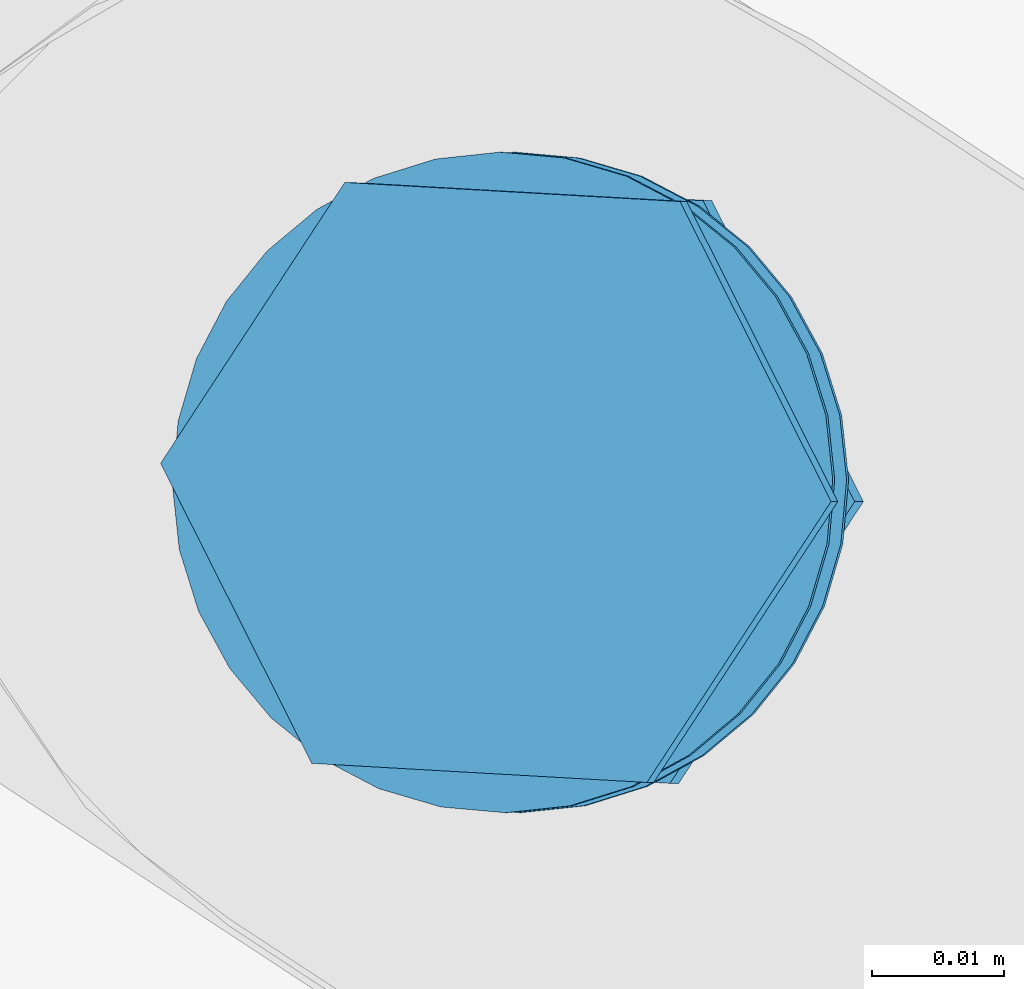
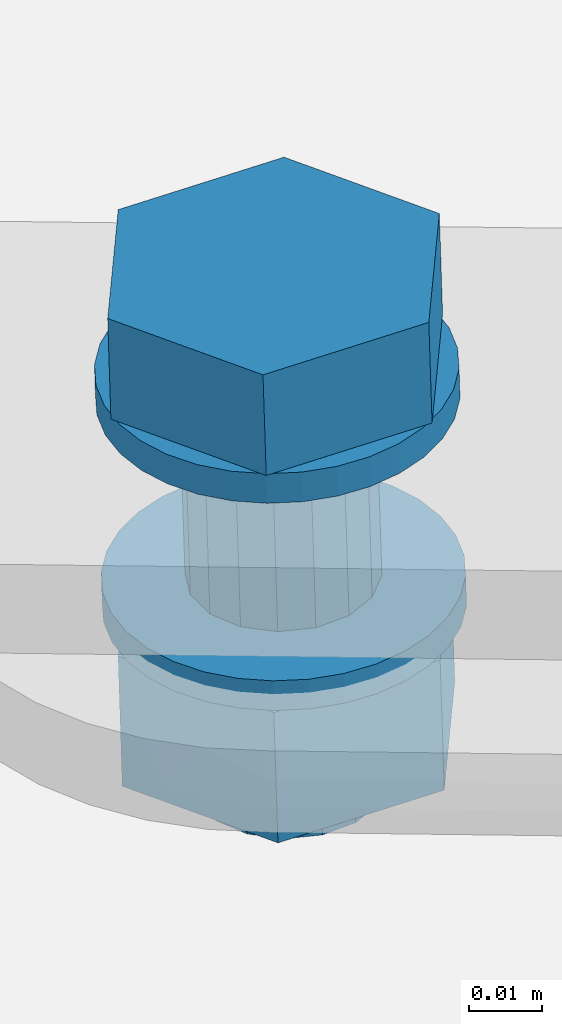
# One storey, part 105 of 476: 1 mechanical fastener.
"""IFC2X3 building model written with IfcOpenShell, lengths in millimetres."""

from ifc_helpers import new_model, entity, si_unit, converted_unit, origin_with_axes, place, context, project, spatial, faceted_brep, element, save


model = new_model("IFC2X3")

# Units and contexts
model_context = context("Model", 3, precision=1e-09, world=origin_with_axes())
ifc_project = project(units=[si_unit("LENGTHUNIT", "METRE", prefix="MILLI"), si_unit("AREAUNIT", "SQUARE_METRE"), si_unit("VOLUMEUNIT", "CUBIC_METRE"), converted_unit("PLANEANGLEUNIT", "DEGREE", entity("IfcPlaneAngleMeasure", 0.01745329), si_unit("PLANEANGLEUNIT", "RADIAN"), dimensions=[0, 0, 0, 0, 0, 0, 0])], contexts=[model_context])

# Site, building, storey
site_placement = place(None, origin_with_axes())
site = spatial("IfcSite", under=ifc_project, at=site_placement, Name="mKR Teilneubau & Sanierung BA1 - Ostfildern", CompositionType="ELEMENT")
building_placement = place(site_placement, origin_with_axes())
building = spatial("IfcBuilding", under=site, at=building_placement, Name="Struktur 1", CompositionType="ELEMENT")
storey_placement = place(building_placement, origin_with_axes())
storey = spatial("IfcBuildingStorey", under=building, at=storey_placement, Name="Default Storey", CompositionType="ELEMENT", Elevation=0.0)

# Mechanical fastener
mechanical_fastener_placement = place(None, origin_with_axes())
element("IfcMechanicalFastener", 1, at=mechanical_fastener_placement, inside=storey, ObjectType="-", NominalDiameter=27.0, NominalLength=70.0, context=model_context, shape_type="Brep", body=[
    faceted_brep([(14274.404906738, -22971.982515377, 5417.92806226), (14274.555116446, -22971.982515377, 5412.930319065), (14276.827464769, -22967.64083734, 5412.998615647), (14276.677255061, -22967.64083734, 5417.996358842), (14278.209513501, -22962.939070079, 5413.040153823), (14278.059303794, -22962.939070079, 5418.037897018), (14278.648151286, -22958.057899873, 5413.053337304), (14278.497941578, -22958.057899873, 5418.051080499), (14278.126521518, -22953.184907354, 5413.037659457), (14277.97631181, -22953.184907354, 5418.035402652), (14276.664670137, -22948.507358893, 5412.993722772), (14276.514460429, -22948.507358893, 5417.991465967), (14274.318775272, -22944.205010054, 5412.923215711), (14274.168565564, -22944.205010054, 5417.920958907), (14271.178988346, -22940.44319769, 5412.828847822), (14271.028778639, -22940.44319769, 5417.826591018), (14267.365969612, -22937.366486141, 5412.71424561), (14267.215759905, -22937.366486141, 5417.711988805), (14263.02625124, -22935.093111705, 5412.583813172), (14262.876041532, -22935.093111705, 5417.581556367), (14258.326606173, -22933.710438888, 5412.442562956), (14258.176396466, -22933.710438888, 5417.440306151), (14253.447639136, -22933.27160303, 5412.295923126), (14253.297429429, -22933.27160303, 5417.293666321), (14248.576846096, -22933.793468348, 5412.14952897), (14248.426636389, -22933.793468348, 5417.147272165), (14243.901408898, -22935.255979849, 5412.009006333), (14243.751199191, -22935.255979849, 5417.006749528), (14239.601001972, -22937.602934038, 5411.879755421), (14239.450792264, -22937.602934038, 5416.877498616), (14235.840887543, -22940.74413878, 5411.766743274), (14235.690677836, -22940.74413878, 5416.764486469), (14232.765564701, -22944.55887934, 5411.674312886), (14232.615354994, -22944.55887934, 5416.672056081), (14230.493216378, -22948.900557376, 5411.606016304), (14230.343006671, -22948.900557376, 5416.603759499), (14229.111167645, -22953.602324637, 5411.564478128), (14228.960957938, -22953.602324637, 5416.562221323), (14228.672529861, -22958.483494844, 5411.551294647), (14228.522320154, -22958.483494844, 5416.549037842), (14229.194159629, -22963.356487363, 5411.566972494), (14229.043949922, -22963.356487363, 5416.564715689), (14230.65601101, -22968.034035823, 5411.610909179), (14230.505801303, -22968.034035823, 5416.608652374), (14233.001905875, -22972.336384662, 5411.68141624), (14232.851696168, -22972.336384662, 5416.679159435), (14236.1416928, -22976.098197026, 5411.775784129), (14235.991483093, -22976.098197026, 5416.773527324), (14239.954711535, -22979.174908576, 5411.890386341), (14239.804501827, -22979.174908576, 5416.888129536), (14244.294429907, -22981.448283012, 5412.020818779), (14244.1442202, -22981.448283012, 5417.018561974), (14248.994074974, -22982.830955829, 5412.162068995), (14248.843865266, -22982.830955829, 5417.159812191), (14253.87304201, -22983.269791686, 5412.308708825), (14253.722832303, -22983.269791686, 5417.30645202), (14258.74383505, -22982.747926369, 5412.455102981), (14258.593625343, -22982.747926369, 5417.452846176), (14263.419272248, -22981.285414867, 5412.595625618), (14263.269062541, -22981.285414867, 5417.593368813), (14267.719679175, -22978.938460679, 5412.72487653), (14267.569469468, -22978.938460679, 5417.722619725), (14271.479793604, -22975.797255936, 5412.837888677), (14271.329583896, -22975.797255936, 5417.835631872)], [[[0, 1, 2, 3]], [[3, 2, 4, 5]], [[5, 4, 6, 7]], [[7, 6, 8, 9]], [[9, 8, 10, 11]], [[11, 10, 12, 13]], [[13, 12, 14, 15]], [[15, 14, 16, 17]], [[17, 16, 18, 19]], [[19, 18, 20, 21]], [[21, 20, 22, 23]], [[23, 22, 24, 25]], [[25, 24, 26, 27]], [[27, 26, 28, 29]], [[29, 28, 30, 31]], [[31, 30, 32, 33]], [[33, 32, 34, 35]], [[35, 34, 36, 37]], [[37, 36, 38, 39]], [[39, 38, 40, 41]], [[41, 40, 42, 43]], [[43, 42, 44, 45]], [[45, 44, 46, 47]], [[47, 46, 48, 49]], [[49, 48, 50, 51]], [[51, 50, 52, 53]], [[53, 52, 54, 55]], [[55, 54, 56, 57]], [[57, 56, 58, 59]], [[59, 58, 60, 61]], [[61, 60, 62, 63]], [[63, 62, 1, 0]], [[0, 3, 5, 7, 9, 11, 13, 15, 17, 19, 21, 23, 25, 27, 29, 31, 33, 35, 37, 39, 41, 43, 45, 47, 49, 51, 53, 55, 57, 59, 61, 63]], [[1, 62, 60, 58, 56, 54, 52, 50, 48, 46, 44, 42, 40, 38, 36, 34, 32, 30, 28, 26, 24, 22, 20, 18, 16, 14, 12, 10, 8, 6, 4, 2]]]),
    faceted_brep([(14242.076414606, -22935.564251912, 5416.956413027), (14241.565701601, -22935.564251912, 5433.948739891), (14266.938042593, -22937.01111455, 5434.711318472), (14267.448755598, -22937.01111455, 5417.718991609), (14278.371758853, -22959.717559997, 5435.054964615), (14278.882471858, -22959.717559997, 5418.062637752), (14264.433134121, -22980.977142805, 5434.636032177), (14264.943847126, -22980.977142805, 5417.643705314), (14239.060793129, -22979.530280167, 5433.873453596), (14239.571506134, -22979.530280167, 5416.881126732), (14227.627076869, -22956.82383472, 5433.529807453), (14228.137789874, -22956.82383472, 5416.537480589)], [[[0, 1, 2, 3]], [[3, 2, 4, 5]], [[5, 4, 6, 7]], [[7, 6, 8, 9]], [[9, 8, 10, 11]], [[11, 10, 1, 0]], [[4, 2, 1, 10, 8, 6]], [[0, 3, 5, 7, 9, 11]]]),
    faceted_brep([(14264.943528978, -22965.675079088, 5412.641123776), (14265.844777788, -22965.675079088, 5382.654978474), (14267.818152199, -22960.791618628, 5382.714289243), (14266.916903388, -22960.791618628, 5412.700434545), (14267.773336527, -22955.524370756, 5382.712942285), (14266.872087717, -22955.524370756, 5412.699087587), (14265.717153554, -22950.675226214, 5382.651142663), (14264.815904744, -22950.675226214, 5412.637287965), (14261.962638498, -22946.982423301, 5382.538298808), (14261.061389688, -22946.982423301, 5412.52444411), (14257.081382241, -22945.008157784, 5382.391590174), (14256.180133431, -22945.008157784, 5412.377735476), (14251.8165118, -22945.052993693, 5382.233351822), (14250.915262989, -22945.052993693, 5412.219497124), (14246.969555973, -22947.110105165, 5382.087674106), (14246.068307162, -22947.110105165, 5412.073819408), (14243.278419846, -22950.866315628, 5381.976735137), (14242.377171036, -22950.866315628, 5411.962880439), (14241.305045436, -22955.749776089, 5381.917424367), (14240.403796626, -22955.749776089, 5411.90356967), (14241.349861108, -22961.017023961, 5381.918771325), (14240.448612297, -22961.017023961, 5411.904916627), (14243.40604408, -22965.866168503, 5381.980570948), (14242.50479527, -22965.866168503, 5411.96671625), (14247.160559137, -22969.558971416, 5382.093414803), (14246.259310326, -22969.558971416, 5412.079560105), (14252.041815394, -22971.533236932, 5382.240123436), (14251.140566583, -22971.533236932, 5412.226268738), (14257.306685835, -22971.488401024, 5382.398361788), (14256.405437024, -22971.488401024, 5412.38450709), (14262.153641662, -22969.431289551, 5382.544039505), (14261.252392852, -22969.431289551, 5412.530184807)], [[[0, 1, 2, 3]], [[3, 2, 4, 5]], [[5, 4, 6, 7]], [[7, 6, 8, 9]], [[9, 8, 10, 11]], [[11, 10, 12, 13]], [[13, 12, 14, 15]], [[15, 14, 16, 17]], [[17, 16, 18, 19]], [[19, 18, 20, 21]], [[21, 20, 22, 23]], [[23, 22, 24, 25]], [[25, 24, 26, 27]], [[27, 26, 28, 29]], [[29, 28, 30, 31]], [[31, 30, 1, 0]], [[0, 3, 5, 7, 9, 11, 13, 15, 17, 19, 21, 23, 25, 27, 29, 31]], [[1, 30, 28, 26, 24, 22, 20, 18, 16, 14, 12, 10, 8, 6, 4, 2]]]),
    faceted_brep([(14275.45637469, -22971.982515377, 5382.943859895), (14275.606584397, -22971.982515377, 5377.9461167), (14277.87893272, -22967.64083734, 5378.014413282), (14277.728723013, -22967.64083734, 5383.012156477), (14279.260981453, -22962.939070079, 5378.055951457), (14279.110771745, -22962.939070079, 5383.053694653), (14279.699619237, -22958.057899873, 5378.069134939), (14279.54940953, -22958.057899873, 5383.066878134), (14279.177989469, -22953.184907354, 5378.053457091), (14279.027779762, -22953.184907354, 5383.051200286), (14277.716138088, -22948.507358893, 5378.009520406), (14277.565928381, -22948.507358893, 5383.007263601), (14275.370243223, -22944.205010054, 5377.939013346), (14275.220033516, -22944.205010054, 5382.936756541), (14272.230456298, -22940.44319769, 5377.844645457), (14272.08024659, -22940.44319769, 5382.842388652), (14268.417437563, -22937.366486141, 5377.730043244), (14268.267227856, -22937.366486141, 5382.727786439), (14264.077719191, -22935.093111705, 5377.599610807), (14263.927509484, -22935.093111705, 5382.597354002), (14259.378074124, -22933.710438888, 5377.45836059), (14259.227864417, -22933.710438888, 5382.456103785), (14254.499107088, -22933.27160303, 5377.31172076), (14254.34889738, -22933.27160303, 5382.309463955), (14249.628314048, -22933.793468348, 5377.165326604), (14249.47810434, -22933.793468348, 5382.163069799), (14244.95287685, -22935.255979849, 5377.024803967), (14244.802667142, -22935.255979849, 5382.022547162), (14240.652469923, -22937.602934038, 5376.895553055), (14240.502260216, -22937.602934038, 5381.89329625), (14236.892355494, -22940.74413878, 5376.782540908), (14236.742145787, -22940.74413878, 5381.780284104), (14233.817032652, -22944.55887934, 5376.69011052), (14233.666822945, -22944.55887934, 5381.687853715), (14231.544684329, -22948.900557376, 5376.621813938), (14231.394474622, -22948.900557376, 5381.619557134), (14230.162635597, -22953.602324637, 5376.580275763), (14230.012425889, -22953.602324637, 5381.578018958), (14229.723997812, -22958.483494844, 5376.567092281), (14229.573788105, -22958.483494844, 5381.564835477), (14230.24562758, -22963.356487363, 5376.582770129), (14230.095417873, -22963.356487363, 5381.580513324), (14231.707478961, -22968.034035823, 5376.626706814), (14231.557269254, -22968.034035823, 5381.624450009), (14234.053373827, -22972.336384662, 5376.697213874), (14233.903164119, -22972.336384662, 5381.694957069), (14237.193160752, -22976.098197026, 5376.791581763), (14237.042951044, -22976.098197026, 5381.789324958), (14241.006179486, -22979.174908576, 5376.906183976), (14240.855969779, -22979.174908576, 5381.903927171), (14245.345897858, -22981.448283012, 5377.036616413), (14245.195688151, -22981.448283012, 5382.034359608), (14250.045542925, -22982.830955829, 5377.17786663), (14249.895333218, -22982.830955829, 5382.175609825), (14254.924509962, -22983.269791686, 5377.32450646), (14254.774300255, -22983.269791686, 5382.322249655), (14259.795303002, -22982.747926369, 5377.470900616), (14259.645093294, -22982.747926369, 5382.468643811), (14264.4707402, -22981.285414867, 5377.611423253), (14264.320530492, -22981.285414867, 5382.609166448), (14268.771147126, -22978.938460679, 5377.740674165), (14268.620937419, -22978.938460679, 5382.73841736), (14272.531261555, -22975.797255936, 5377.853686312), (14272.381051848, -22975.797255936, 5382.851429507)], [[[0, 1, 2, 3]], [[3, 2, 4, 5]], [[5, 4, 6, 7]], [[7, 6, 8, 9]], [[9, 8, 10, 11]], [[11, 10, 12, 13]], [[13, 12, 14, 15]], [[15, 14, 16, 17]], [[17, 16, 18, 19]], [[19, 18, 20, 21]], [[21, 20, 22, 23]], [[23, 22, 24, 25]], [[25, 24, 26, 27]], [[27, 26, 28, 29]], [[29, 28, 30, 31]], [[31, 30, 32, 33]], [[33, 32, 34, 35]], [[35, 34, 36, 37]], [[37, 36, 38, 39]], [[39, 38, 40, 41]], [[41, 40, 42, 43]], [[43, 42, 44, 45]], [[45, 44, 46, 47]], [[47, 46, 48, 49]], [[49, 48, 50, 51]], [[51, 50, 52, 53]], [[53, 52, 54, 55]], [[55, 54, 56, 57]], [[57, 56, 58, 59]], [[59, 58, 60, 61]], [[61, 60, 62, 63]], [[63, 62, 1, 0]], [[0, 3, 5, 7, 9, 11, 13, 15, 17, 19, 21, 23, 25, 27, 29, 31, 33, 35, 37, 39, 41, 43, 45, 47, 49, 51, 53, 55, 57, 59, 61, 63]], [[1, 62, 60, 58, 56, 54, 52, 50, 48, 46, 44, 42, 40, 38, 36, 34, 32, 30, 28, 26, 24, 22, 20, 18, 16, 14, 12, 10, 8, 6, 4, 2]]]),
    faceted_brep([(14243.905287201, -22935.497271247, 5354.983383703), (14243.244364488, -22935.497271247, 5376.973453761), (14268.691550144, -22936.948401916, 5377.738281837), (14269.352472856, -22936.948401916, 5355.748211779), (14280.15899418, -22959.721828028, 5378.082941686), (14280.819916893, -22959.721828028, 5356.092871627), (14266.179252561, -22981.04412347, 5377.662773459), (14266.840175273, -22981.04412347, 5355.6727034), (14240.732066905, -22979.5929928, 5376.897945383), (14241.392989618, -22979.5929928, 5354.907875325), (14229.264622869, -22956.819566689, 5376.553285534), (14229.925545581, -22956.819566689, 5354.563215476)], [[[0, 1, 2, 3]], [[3, 2, 4, 5]], [[5, 4, 6, 7]], [[7, 6, 8, 9]], [[9, 8, 10, 11]], [[11, 10, 1, 0]], [[4, 2, 1, 10, 8, 6]], [[0, 3, 5, 7, 9, 11]]]),
    faceted_brep([(14266.655900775, -22965.675079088, 5355.667479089), (14266.89624574, -22965.675079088, 5347.670776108), (14268.86962015, -22960.791618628, 5347.730086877), (14268.629275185, -22960.791618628, 5355.726789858), (14268.824804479, -22955.524370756, 5347.72873992), (14268.584459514, -22955.524370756, 5355.7254429), (14266.768621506, -22950.675226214, 5347.666940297), (14266.528276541, -22950.675226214, 5355.663643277), (14263.01410645, -22946.982423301, 5347.554096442), (14262.773761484, -22946.982423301, 5355.550799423), (14258.132850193, -22945.008157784, 5347.407387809), (14257.892505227, -22945.008157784, 5355.404090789), (14252.867979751, -22945.052993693, 5347.249149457), (14252.627634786, -22945.052993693, 5355.245852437), (14248.021023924, -22947.110105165, 5347.10347174), (14247.780678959, -22947.110105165, 5355.100174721), (14244.329887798, -22950.866315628, 5346.992532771), (14244.089542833, -22950.866315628, 5354.989235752), (14242.356513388, -22955.749776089, 5346.933222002), (14242.116168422, -22955.749776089, 5354.929924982), (14242.401329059, -22961.017023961, 5346.93456896), (14242.160984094, -22961.017023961, 5354.93127194), (14244.457512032, -22965.866168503, 5346.996368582), (14244.217167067, -22965.866168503, 5354.993071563), (14248.212027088, -22969.558971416, 5347.109212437), (14247.971682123, -22969.558971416, 5355.105915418), (14253.093283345, -22971.533236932, 5347.25592107), (14252.85293838, -22971.533236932, 5355.252624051), (14258.358153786, -22971.488401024, 5347.414159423), (14258.117808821, -22971.488401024, 5355.410862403), (14263.205109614, -22969.431289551, 5347.559837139), (14262.964764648, -22969.431289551, 5355.55654012)], [[[0, 1, 2, 3]], [[3, 2, 4, 5]], [[5, 4, 6, 7]], [[7, 6, 8, 9]], [[9, 8, 10, 11]], [[11, 10, 12, 13]], [[13, 12, 14, 15]], [[15, 14, 16, 17]], [[17, 16, 18, 19]], [[19, 18, 20, 21]], [[21, 20, 22, 23]], [[23, 22, 24, 25]], [[25, 24, 26, 27]], [[27, 26, 28, 29]], [[29, 28, 30, 31]], [[31, 30, 1, 0]], [[0, 3, 5, 7, 9, 11, 13, 15, 17, 19, 21, 23, 25, 27, 29, 31]], [[1, 30, 28, 26, 24, 22, 20, 18, 16, 14, 12, 10, 8, 6, 4, 2]]]),
])

save(model, "model.ifc")
